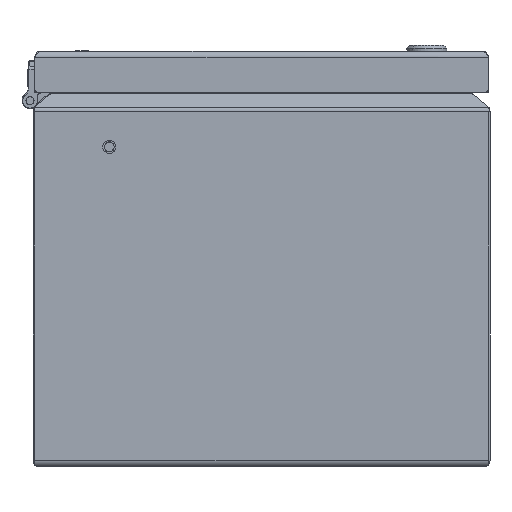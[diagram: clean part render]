
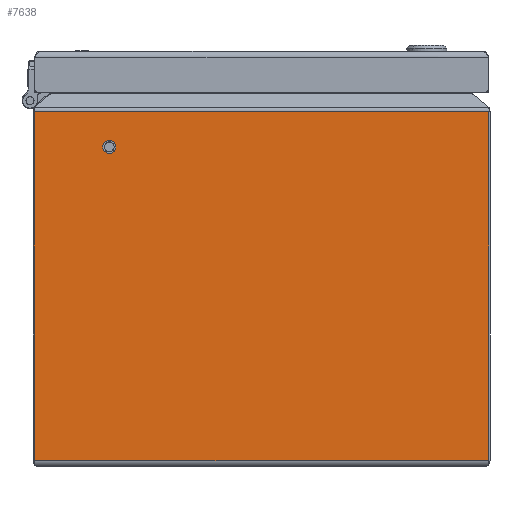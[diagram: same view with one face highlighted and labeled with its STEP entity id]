
A CAD part, front view. The second image highlights one B-rep face of the part: STEP entity #7638.
In plain terms, the highlighted planar face has unit normal (0, -1, 0).
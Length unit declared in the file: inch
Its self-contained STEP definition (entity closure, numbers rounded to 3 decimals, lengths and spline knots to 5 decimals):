
#636=DIRECTION('',(1.,0.,0.));
#637=VECTOR('',#636,8.94283);
#638=CARTESIAN_POINT('',(-4.47141,-6.,0.12));
#639=LINE('',#638,#637);
#657=DIRECTION('',(0.001,0.,1.));
#658=VECTOR('',#657,6.87305);
#659=CARTESIAN_POINT('',(4.47141,-6.,0.12));
#660=LINE('',#659,#658);
#664=DIRECTION('',(-0.001,0.,1.));
#665=VECTOR('',#664,6.87305);
#666=CARTESIAN_POINT('',(-4.47141,-6.,0.12));
#667=LINE('',#666,#665);
#671=DIRECTION('',(1.,0.,0.));
#672=VECTOR('',#671,8.95933);
#673=CARTESIAN_POINT('',(-4.47966,-6.,6.99304));
#674=LINE('',#673,#672);
#678=CARTESIAN_POINT('',(-3.,-6.,6.299));
#679=DIRECTION('',(0.,-1.,0.));
#680=DIRECTION('',(0.,0.,-1.));
#681=AXIS2_PLACEMENT_3D('',#678,#679,#680);
#686=CARTESIAN_POINT('',(-3.,-6.,6.299));
#687=DIRECTION('',(0.,-1.,0.));
#688=DIRECTION('',(0.,0.,1.));
#689=AXIS2_PLACEMENT_3D('',#686,#687,#688);
#6617=CARTESIAN_POINT('',(-4.47141,-6.,0.12));
#6618=CARTESIAN_POINT('',(-4.47966,-6.,6.99304));
#6619=VERTEX_POINT('',#6617);
#6620=VERTEX_POINT('',#6618);
#6793=CARTESIAN_POINT('',(4.47141,-6.,0.12));
#6794=CARTESIAN_POINT('',(4.47966,-6.,6.99304));
#6795=VERTEX_POINT('',#6793);
#6796=VERTEX_POINT('',#6794);
#7041=CARTESIAN_POINT('',(-3.,-6.,6.20095));
#7042=CARTESIAN_POINT('',(-3.,-6.,6.39705));
#7043=VERTEX_POINT('',#7041);
#7044=VERTEX_POINT('',#7042);
#7619=CARTESIAN_POINT('',(-4.5,-6.,0.));
#7620=DIRECTION('',(0.,-1.,0.));
#7621=DIRECTION('',(1.,0.,0.));
#7622=AXIS2_PLACEMENT_3D('',#7619,#7620,#7621);
#7623=PLANE('',#7622);
#7624=ORIENTED_EDGE('',*,*,#7609,.F.);
#7625=ORIENTED_EDGE('',*,*,#7585,.F.);
#7627=ORIENTED_EDGE('',*,*,#7626,.T.);
#7629=ORIENTED_EDGE('',*,*,#7628,.T.);
#7630=EDGE_LOOP('',(#7624,#7625,#7627,#7629));
#7631=FACE_OUTER_BOUND('',#7630,.F.);
#7633=ORIENTED_EDGE('',*,*,#7632,.T.);
#7635=ORIENTED_EDGE('',*,*,#7634,.T.);
#7636=EDGE_LOOP('',(#7633,#7635));
#7637=FACE_BOUND('',#7636,.F.);
#682=CIRCLE('',#681,0.09805);
#690=CIRCLE('',#689,0.09805);
#7585=EDGE_CURVE('',#6619,#6795,#639,.T.);
#7609=EDGE_CURVE('',#6795,#6796,#660,.T.);
#7626=EDGE_CURVE('',#6619,#6620,#667,.T.);
#7628=EDGE_CURVE('',#6620,#6796,#674,.T.);
#7632=EDGE_CURVE('',#7043,#7044,#682,.T.);
#7634=EDGE_CURVE('',#7044,#7043,#690,.T.);
#7638=ADVANCED_FACE('',(#7631,#7637),#7623,.T.);
